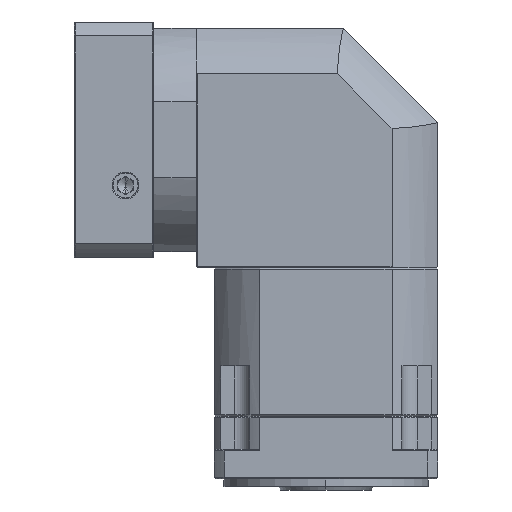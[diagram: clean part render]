
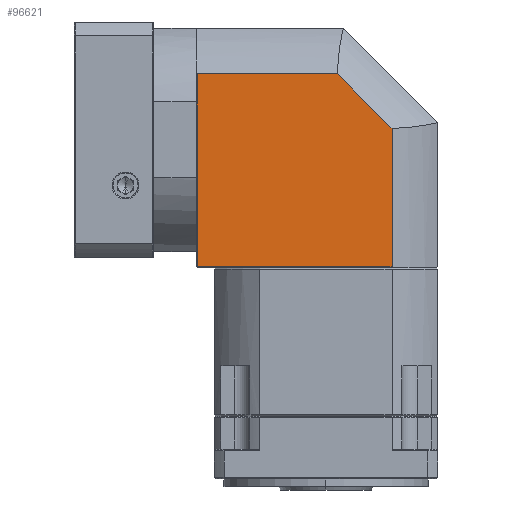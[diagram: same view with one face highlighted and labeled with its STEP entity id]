
A CAD part, left-side view. The second image highlights one B-rep face of the part: STEP entity #96621.
In plain terms, the highlighted planar face has unit normal (-1, 0, 0).
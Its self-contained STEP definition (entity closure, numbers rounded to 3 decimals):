
#4705 = VERTEX_POINT ( 'NONE', #40531 ) ;
#5248 = DIRECTION ( 'NONE',  ( 0., 0.707, 0.707 ) ) ;
#6126 = ORIENTED_EDGE ( 'NONE', *, *, #74358, .T. ) ;
#11691 = CARTESIAN_POINT ( 'NONE',  ( -242.727, 95.226, 128.872 ) ) ;
#12328 = EDGE_CURVE ( 'NONE', #23719, #4705, #123496, .T. ) ;
#12929 = CARTESIAN_POINT ( 'NONE',  ( -242.727, 95.226, 81.757 ) ) ;
#14105 = CARTESIAN_POINT ( 'NONE',  ( -242.727, 47.461, 81.757 ) ) ;
#19376 = ORIENTED_EDGE ( 'NONE', *, *, #77025, .T. ) ;
#20064 = EDGE_CURVE ( 'NONE', #4705, #70289, #119421, .T. ) ;
#23195 = ORIENTED_EDGE ( 'NONE', *, *, #20064, .T. ) ;
#23719 = VERTEX_POINT ( 'NONE', #32146 ) ;
#28695 = DIRECTION ( 'NONE',  ( 0., 0., -1. ) ) ;
#32146 = CARTESIAN_POINT ( 'NONE',  ( -242.727, 171.476, 128.872 ) ) ;
#34296 = CARTESIAN_POINT ( 'NONE',  ( -242.727, 47.461, 6.157 ) ) ;
#36617 = DIRECTION ( 'NONE',  ( 0., -1., 0. ) ) ;
#40250 = CARTESIAN_POINT ( 'NONE',  ( -242.727, 47.461, 94.2 ) ) ;
#40531 = CARTESIAN_POINT ( 'NONE',  ( -242.727, 171.476, 6.157 ) ) ;
#41373 = DIRECTION ( 'NONE',  ( 0., 1., 0. ) ) ;
#46159 = LINE ( 'NONE', #14105, #60455 ) ;
#49591 = VERTEX_POINT ( 'NONE', #40250 ) ;
#50541 = CARTESIAN_POINT ( 'NONE',  ( -242.727, 82.134, 128.872 ) ) ;
#56321 = CARTESIAN_POINT ( 'NONE',  ( -242.727, 95.226, 6.157 ) ) ;
#60455 = VECTOR ( 'NONE', #67071, 1000. ) ;
#67071 = DIRECTION ( 'NONE',  ( 0., 0., 1. ) ) ;
#70289 = VERTEX_POINT ( 'NONE', #34296 ) ;
#73553 = VECTOR ( 'NONE', #28695, 1000. ) ;
#73976 = ORIENTED_EDGE ( 'NONE', *, *, #12328, .T. ) ;
#74358 = EDGE_CURVE ( 'NONE', #130994, #23719, #78282, .T. ) ;
#77025 = EDGE_CURVE ( 'NONE', #49591, #130994, #107057, .T. ) ;
#78282 = LINE ( 'NONE', #11691, #91114 ) ;
#86141 = VECTOR ( 'NONE', #5248, 1000. ) ;
#91114 = VECTOR ( 'NONE', #41373, 1000. ) ;
#91974 = VECTOR ( 'NONE', #36617, 1000. ) ;
#94142 = EDGE_CURVE ( 'NONE', #70289, #49591, #46159, .T. ) ;
#94209 = AXIS2_PLACEMENT_3D ( 'NONE', #12929, #104528, #116236 ) ;
#94673 = FACE_OUTER_BOUND ( 'NONE', #109479, .T. ) ;
#96621 = ADVANCED_FACE ( 'NONE', ( #94673 ), #105417, .T. ) ;
#97783 = CARTESIAN_POINT ( 'NONE',  ( -242.727, 47.461, 94.2 ) ) ;
#104528 = DIRECTION ( 'NONE',  ( -1., 0., 0. ) ) ;
#105417 = PLANE ( 'NONE',  #94209 ) ;
#107057 = LINE ( 'NONE', #97783, #86141 ) ;
#109479 = EDGE_LOOP ( 'NONE', ( #19376, #6126, #73976, #23195, #132137 ) ) ;
#116236 = DIRECTION ( 'NONE',  ( 0., 0., -1. ) ) ;
#119421 = LINE ( 'NONE', #56321, #91974 ) ;
#123110 = CARTESIAN_POINT ( 'NONE',  ( -242.727, 171.476, 81.757 ) ) ;
#123496 = LINE ( 'NONE', #123110, #73553 ) ;
#130994 = VERTEX_POINT ( 'NONE', #50541 ) ;
#132137 = ORIENTED_EDGE ( 'NONE', *, *, #94142, .T. ) ;
